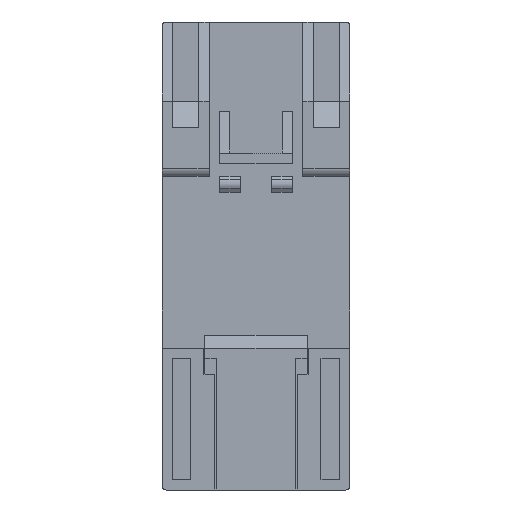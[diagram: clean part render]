
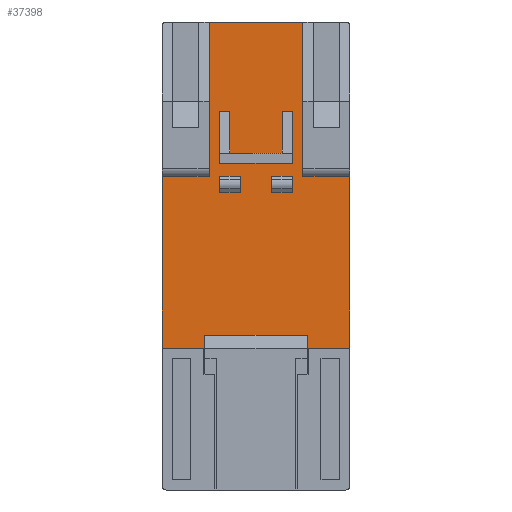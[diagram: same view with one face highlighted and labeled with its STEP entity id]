
A CAD part, left-side view. The second image highlights one B-rep face of the part: STEP entity #37398.
In plain terms, the highlighted planar face has unit normal (-1, 0, 0) as drawn and (0, 0, -1) by its records, which use the part's own axes.
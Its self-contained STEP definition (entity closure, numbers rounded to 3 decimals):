
#1545=FACE_BOUND('',#4979,.T.);
#1546=FACE_BOUND('',#4980,.T.);
#1547=FACE_BOUND('',#4981,.T.);
#2916=FACE_OUTER_BOUND('',#4978,.T.);
#4978=EDGE_LOOP('',(#24949,#24950,#24951,#24952,#24953,#24954,#24955,#24956,
#24957,#24958,#24959,#24960,#24961,#24962,#24963,#24964));
#4979=EDGE_LOOP('',(#24965,#24966,#24967,#24968,#24969,#24970,#24971,#24972));
#4980=EDGE_LOOP('',(#24973,#24974,#24975,#24976));
#4981=EDGE_LOOP('',(#24977,#24978,#24979,#24980));
#7387=LINE('',#52775,#11471);
#7401=LINE('',#52804,#11485);
#7470=LINE('',#53000,#11554);
#7471=LINE('',#53002,#11555);
#7472=LINE('',#53004,#11556);
#7473=LINE('',#53006,#11557);
#7474=LINE('',#53008,#11558);
#7475=LINE('',#53010,#11559);
#7476=LINE('',#53012,#11560);
#7477=LINE('',#53014,#11561);
#7478=LINE('',#53016,#11562);
#7479=LINE('',#53018,#11563);
#7480=LINE('',#53020,#11564);
#7481=LINE('',#53022,#11565);
#7482=LINE('',#53024,#11566);
#7483=LINE('',#53025,#11567);
#7484=LINE('',#53028,#11568);
#7485=LINE('',#53030,#11569);
#7486=LINE('',#53032,#11570);
#7487=LINE('',#53034,#11571);
#7488=LINE('',#53036,#11572);
#7489=LINE('',#53038,#11573);
#7490=LINE('',#53040,#11574);
#7491=LINE('',#53041,#11575);
#7492=LINE('',#53044,#11576);
#7493=LINE('',#53046,#11577);
#7494=LINE('',#53048,#11578);
#7495=LINE('',#53049,#11579);
#7496=LINE('',#53052,#11580);
#7497=LINE('',#53054,#11581);
#7498=LINE('',#53056,#11582);
#7499=LINE('',#53057,#11583);
#11471=VECTOR('',#42713,10.);
#11485=VECTOR('',#42729,10.);
#11554=VECTOR('',#42858,10.);
#11555=VECTOR('',#42859,10.);
#11556=VECTOR('',#42860,10.);
#11557=VECTOR('',#42861,10.);
#11558=VECTOR('',#42862,10.);
#11559=VECTOR('',#42863,10.);
#11560=VECTOR('',#42864,10.);
#11561=VECTOR('',#42865,10.);
#11562=VECTOR('',#42866,10.);
#11563=VECTOR('',#42867,10.);
#11564=VECTOR('',#42868,10.);
#11565=VECTOR('',#42869,10.);
#11566=VECTOR('',#42870,10.);
#11567=VECTOR('',#42871,10.);
#11568=VECTOR('',#42872,10.);
#11569=VECTOR('',#42873,10.);
#11570=VECTOR('',#42874,10.);
#11571=VECTOR('',#42875,10.);
#11572=VECTOR('',#42876,10.);
#11573=VECTOR('',#42877,10.);
#11574=VECTOR('',#42878,10.);
#11575=VECTOR('',#42879,10.);
#11576=VECTOR('',#42880,10.);
#11577=VECTOR('',#42881,10.);
#11578=VECTOR('',#42882,10.);
#11579=VECTOR('',#42883,10.);
#11580=VECTOR('',#42884,10.);
#11581=VECTOR('',#42885,10.);
#11582=VECTOR('',#42886,10.);
#11583=VECTOR('',#42887,10.);
#15542=VERTEX_POINT('',#52759);
#15549=VERTEX_POINT('',#52773);
#15563=VERTEX_POINT('',#52802);
#15660=VERTEX_POINT('',#52999);
#15661=VERTEX_POINT('',#53001);
#15662=VERTEX_POINT('',#53003);
#15663=VERTEX_POINT('',#53005);
#15664=VERTEX_POINT('',#53007);
#15665=VERTEX_POINT('',#53009);
#15666=VERTEX_POINT('',#53011);
#15667=VERTEX_POINT('',#53013);
#15668=VERTEX_POINT('',#53015);
#15669=VERTEX_POINT('',#53017);
#15670=VERTEX_POINT('',#53019);
#15671=VERTEX_POINT('',#53021);
#15672=VERTEX_POINT('',#53023);
#15673=VERTEX_POINT('',#53026);
#15674=VERTEX_POINT('',#53027);
#15675=VERTEX_POINT('',#53029);
#15676=VERTEX_POINT('',#53031);
#15677=VERTEX_POINT('',#53033);
#15678=VERTEX_POINT('',#53035);
#15679=VERTEX_POINT('',#53037);
#15680=VERTEX_POINT('',#53039);
#15681=VERTEX_POINT('',#53042);
#15682=VERTEX_POINT('',#53043);
#15683=VERTEX_POINT('',#53045);
#15684=VERTEX_POINT('',#53047);
#15685=VERTEX_POINT('',#53050);
#15686=VERTEX_POINT('',#53051);
#15687=VERTEX_POINT('',#53053);
#15688=VERTEX_POINT('',#53055);
#19267=EDGE_CURVE('',#15549,#15542,#7387,.T.);
#19281=EDGE_CURVE('',#15563,#15549,#7401,.T.);
#19379=EDGE_CURVE('',#15563,#15660,#7470,.T.);
#19380=EDGE_CURVE('',#15660,#15661,#7471,.T.);
#19381=EDGE_CURVE('',#15661,#15662,#7472,.T.);
#19382=EDGE_CURVE('',#15662,#15663,#7473,.T.);
#19383=EDGE_CURVE('',#15664,#15663,#7474,.T.);
#19384=EDGE_CURVE('',#15664,#15665,#7475,.T.);
#19385=EDGE_CURVE('',#15665,#15666,#7476,.T.);
#19386=EDGE_CURVE('',#15666,#15667,#7477,.T.);
#19387=EDGE_CURVE('',#15667,#15668,#7478,.T.);
#19388=EDGE_CURVE('',#15668,#15669,#7479,.T.);
#19389=EDGE_CURVE('',#15669,#15670,#7480,.T.);
#19390=EDGE_CURVE('',#15671,#15670,#7481,.T.);
#19391=EDGE_CURVE('',#15671,#15672,#7482,.T.);
#19392=EDGE_CURVE('',#15672,#15542,#7483,.T.);
#19393=EDGE_CURVE('',#15673,#15674,#7484,.T.);
#19394=EDGE_CURVE('',#15674,#15675,#7485,.T.);
#19395=EDGE_CURVE('',#15675,#15676,#7486,.T.);
#19396=EDGE_CURVE('',#15676,#15677,#7487,.T.);
#19397=EDGE_CURVE('',#15677,#15678,#7488,.T.);
#19398=EDGE_CURVE('',#15678,#15679,#7489,.T.);
#19399=EDGE_CURVE('',#15679,#15680,#7490,.T.);
#19400=EDGE_CURVE('',#15680,#15673,#7491,.T.);
#19401=EDGE_CURVE('',#15681,#15682,#7492,.T.);
#19402=EDGE_CURVE('',#15682,#15683,#7493,.T.);
#19403=EDGE_CURVE('',#15683,#15684,#7494,.T.);
#19404=EDGE_CURVE('',#15684,#15681,#7495,.T.);
#19405=EDGE_CURVE('',#15685,#15686,#7496,.T.);
#19406=EDGE_CURVE('',#15686,#15687,#7497,.T.);
#19407=EDGE_CURVE('',#15687,#15688,#7498,.T.);
#19408=EDGE_CURVE('',#15688,#15685,#7499,.T.);
#24949=ORIENTED_EDGE('',*,*,#19267,.F.);
#24950=ORIENTED_EDGE('',*,*,#19281,.F.);
#24951=ORIENTED_EDGE('',*,*,#19379,.T.);
#24952=ORIENTED_EDGE('',*,*,#19380,.T.);
#24953=ORIENTED_EDGE('',*,*,#19381,.T.);
#24954=ORIENTED_EDGE('',*,*,#19382,.T.);
#24955=ORIENTED_EDGE('',*,*,#19383,.F.);
#24956=ORIENTED_EDGE('',*,*,#19384,.T.);
#24957=ORIENTED_EDGE('',*,*,#19385,.T.);
#24958=ORIENTED_EDGE('',*,*,#19386,.T.);
#24959=ORIENTED_EDGE('',*,*,#19387,.T.);
#24960=ORIENTED_EDGE('',*,*,#19388,.T.);
#24961=ORIENTED_EDGE('',*,*,#19389,.T.);
#24962=ORIENTED_EDGE('',*,*,#19390,.F.);
#24963=ORIENTED_EDGE('',*,*,#19391,.T.);
#24964=ORIENTED_EDGE('',*,*,#19392,.T.);
#24965=ORIENTED_EDGE('',*,*,#19393,.T.);
#24966=ORIENTED_EDGE('',*,*,#19394,.T.);
#24967=ORIENTED_EDGE('',*,*,#19395,.T.);
#24968=ORIENTED_EDGE('',*,*,#19396,.T.);
#24969=ORIENTED_EDGE('',*,*,#19397,.T.);
#24970=ORIENTED_EDGE('',*,*,#19398,.T.);
#24971=ORIENTED_EDGE('',*,*,#19399,.T.);
#24972=ORIENTED_EDGE('',*,*,#19400,.T.);
#24973=ORIENTED_EDGE('',*,*,#19401,.T.);
#24974=ORIENTED_EDGE('',*,*,#19402,.T.);
#24975=ORIENTED_EDGE('',*,*,#19403,.T.);
#24976=ORIENTED_EDGE('',*,*,#19404,.T.);
#24977=ORIENTED_EDGE('',*,*,#19405,.T.);
#24978=ORIENTED_EDGE('',*,*,#19406,.T.);
#24979=ORIENTED_EDGE('',*,*,#19407,.T.);
#24980=ORIENTED_EDGE('',*,*,#19408,.T.);
#35928=PLANE('',#39717);
#37398=ADVANCED_FACE('',(#2916,#1545,#1546,#1547),#35928,.F.);
#39717=AXIS2_PLACEMENT_3D('',#52998,#42856,#42857);
#42713=DIRECTION('',(0.,-1.,0.));
#42729=DIRECTION('',(-1.,0.,0.));
#42856=DIRECTION('center_axis',(0.,0.,1.));
#42857=DIRECTION('ref_axis',(1.,0.,0.));
#42858=DIRECTION('',(0.,-1.,0.));
#42859=DIRECTION('',(1.,0.,0.));
#42860=DIRECTION('',(0.,-1.,0.));
#42861=DIRECTION('',(-1.,0.,0.));
#42862=DIRECTION('',(0.,1.,0.));
#42863=DIRECTION('',(-1.,0.,0.));
#42864=DIRECTION('',(0.,1.,0.));
#42865=DIRECTION('',(-1.,0.,0.));
#42866=DIRECTION('',(0.,-1.,0.));
#42867=DIRECTION('',(-1.,0.,0.));
#42868=DIRECTION('',(0.,1.,0.));
#42869=DIRECTION('',(1.,0.,0.));
#42870=DIRECTION('',(0.,1.,0.));
#42871=DIRECTION('',(1.,0.,0.));
#42872=DIRECTION('',(0.,-1.,0.));
#42873=DIRECTION('',(1.,0.,0.));
#42874=DIRECTION('',(0.,1.,0.));
#42875=DIRECTION('',(-1.,0.,0.));
#42876=DIRECTION('',(0.,-1.,0.));
#42877=DIRECTION('',(-1.,0.,0.));
#42878=DIRECTION('',(0.,1.,0.));
#42879=DIRECTION('',(-1.,0.,0.));
#42880=DIRECTION('',(-1.,0.,0.));
#42881=DIRECTION('',(0.,-1.,0.));
#42882=DIRECTION('',(1.,0.,0.));
#42883=DIRECTION('',(0.,1.,0.));
#42884=DIRECTION('',(-1.,0.,0.));
#42885=DIRECTION('',(0.,-1.,0.));
#42886=DIRECTION('',(1.,0.,0.));
#42887=DIRECTION('',(0.,1.,0.));
#52759=CARTESIAN_POINT('',(-9.,18.3,0.));
#52773=CARTESIAN_POINT('',(-9.,45.,0.));
#52775=CARTESIAN_POINT('',(-9.,23.,0.));
#52802=CARTESIAN_POINT('',(9.,45.,0.));
#52804=CARTESIAN_POINT('',(9.,45.,0.));
#52998=CARTESIAN_POINT('Origin',(0.,1.,0.));
#52999=CARTESIAN_POINT('',(9.,18.3,0.));
#53000=CARTESIAN_POINT('',(9.,3.,0.));
#53001=CARTESIAN_POINT('',(18.,18.3,0.));
#53002=CARTESIAN_POINT('',(0.,18.3,0.));
#53003=CARTESIAN_POINT('',(18.,-17.7,0.));
#53004=CARTESIAN_POINT('',(18.,-22.,0.));
#53005=CARTESIAN_POINT('',(10.,-17.7,0.));
#53006=CARTESIAN_POINT('',(0.,-17.7,0.));
#53007=CARTESIAN_POINT('',(10.,-45.,0.));
#53008=CARTESIAN_POINT('',(10.,-45.,0.));
#53009=CARTESIAN_POINT('',(4.,-45.,0.));
#53010=CARTESIAN_POINT('',(-9.,-45.,0.));
#53011=CARTESIAN_POINT('',(4.,-43.,0.));
#53012=CARTESIAN_POINT('',(4.,-21.717,0.));
#53013=CARTESIAN_POINT('',(-4.,-43.,0.));
#53014=CARTESIAN_POINT('',(0.,-43.,0.));
#53015=CARTESIAN_POINT('',(-4.,-45.,0.));
#53016=CARTESIAN_POINT('',(-4.,-21.717,0.));
#53017=CARTESIAN_POINT('',(-10.,-45.,0.));
#53018=CARTESIAN_POINT('',(-9.,-45.,0.));
#53019=CARTESIAN_POINT('',(-10.,-17.7,0.));
#53020=CARTESIAN_POINT('',(-10.,-45.,0.));
#53021=CARTESIAN_POINT('',(-18.,-17.7,0.));
#53022=CARTESIAN_POINT('',(0.,-17.7,0.));
#53023=CARTESIAN_POINT('',(-18.,18.3,0.));
#53024=CARTESIAN_POINT('',(-18.,23.,0.));
#53025=CARTESIAN_POINT('',(0.,18.3,0.));
#53026=CARTESIAN_POINT('',(-7.,27.8,0.));
#53027=CARTESIAN_POINT('',(-7.,17.8,0.));
#53028=CARTESIAN_POINT('',(-7.,8.9,0.));
#53029=CARTESIAN_POINT('',(7.,17.8,0.));
#53030=CARTESIAN_POINT('',(3.5,17.8,0.));
#53031=CARTESIAN_POINT('',(7.,27.8,0.));
#53032=CARTESIAN_POINT('',(7.,13.9,0.));
#53033=CARTESIAN_POINT('',(5.,27.8,0.));
#53034=CARTESIAN_POINT('',(2.5,27.8,0.));
#53035=CARTESIAN_POINT('',(5.,19.8,0.));
#53036=CARTESIAN_POINT('',(5.,9.9,0.));
#53037=CARTESIAN_POINT('',(-5.,19.8,0.));
#53038=CARTESIAN_POINT('',(-2.5,19.8,0.));
#53039=CARTESIAN_POINT('',(-5.,27.8,0.));
#53040=CARTESIAN_POINT('',(-5.,13.9,0.));
#53041=CARTESIAN_POINT('',(-3.5,27.8,0.));
#53042=CARTESIAN_POINT('',(7.,15.3,0.));
#53043=CARTESIAN_POINT('',(3.,15.3,0.));
#53044=CARTESIAN_POINT('',(3.5,15.3,0.));
#53045=CARTESIAN_POINT('',(3.,12.3,0.));
#53046=CARTESIAN_POINT('',(3.,6.9,0.));
#53047=CARTESIAN_POINT('',(7.,12.3,0.));
#53048=CARTESIAN_POINT('',(3.5,12.3,0.));
#53049=CARTESIAN_POINT('',(7.,6.9,0.));
#53050=CARTESIAN_POINT('',(-3.,15.3,0.));
#53051=CARTESIAN_POINT('',(-7.,15.3,0.));
#53052=CARTESIAN_POINT('',(-3.5,15.3,0.));
#53053=CARTESIAN_POINT('',(-7.,12.3,0.));
#53054=CARTESIAN_POINT('',(-7.,6.9,0.));
#53055=CARTESIAN_POINT('',(-3.,12.3,0.));
#53056=CARTESIAN_POINT('',(-3.5,12.3,0.));
#53057=CARTESIAN_POINT('',(-3.,6.9,0.));
